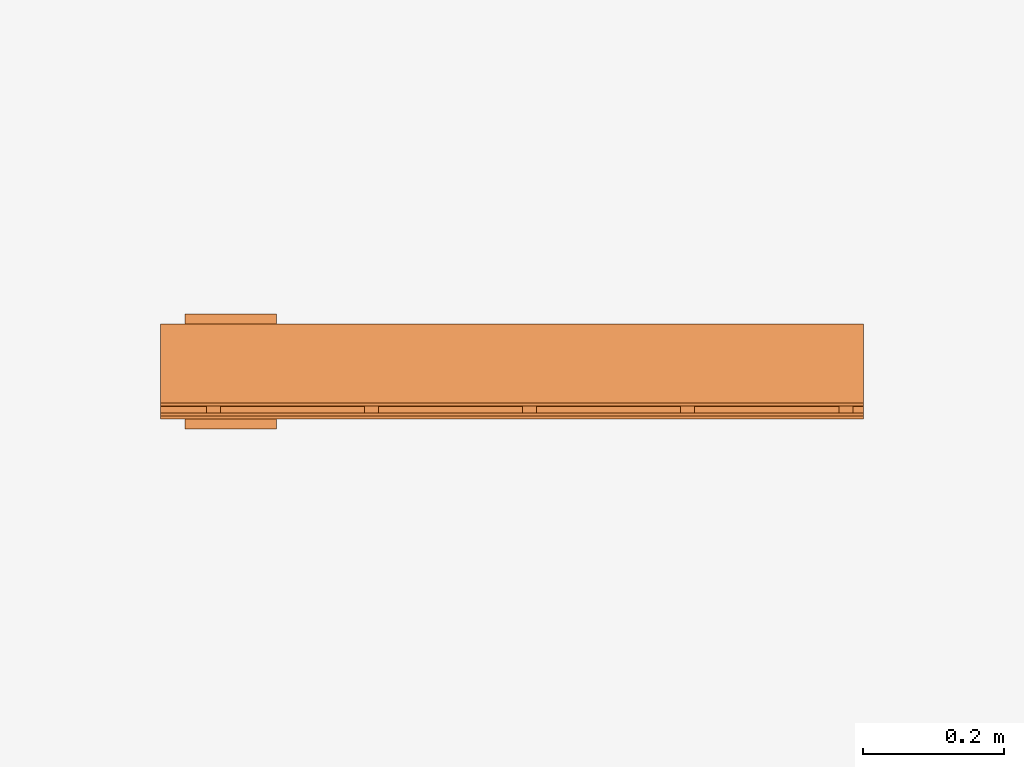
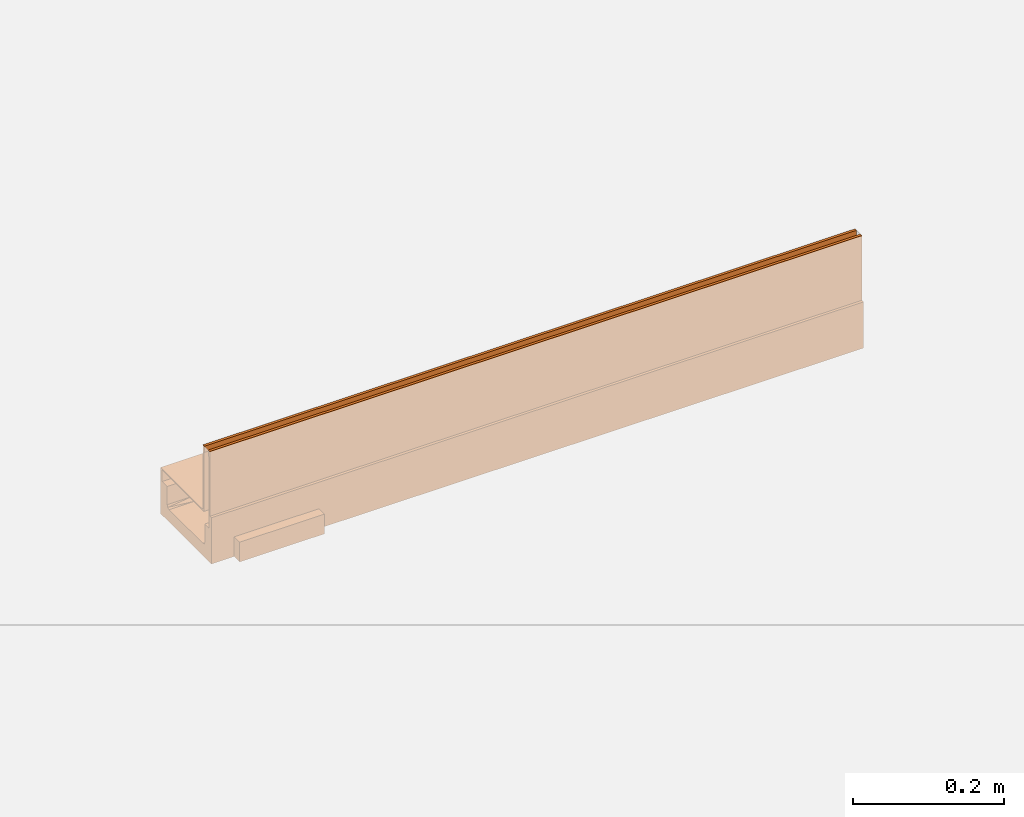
# One storey, part 2 of 2: 1 proxy.
"""IFC2X3 building model written with IfcOpenShell, lengths in millimetres."""

from ifc_helpers import new_model, entity, si_unit, converted_unit, direction, frame, origin, place, context, subcontext, project, spatial, faceted_brep, source, transform, mapped, material, material_list, element, save


model = new_model("IFC2X3")

# Units and contexts
model_context = context("Model", 3, precision=1e-06, world=origin(), true_north=direction((2.0, 6.12303176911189e-17, 1.0)))
context_of_model = context(None, 3, precision=1e-06, world=origin(), true_north=direction((2.0, 6.12303176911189e-17, 1.0)))
body_context = subcontext(model_context, "Body", "Model", "MODEL_VIEW")
ifc_project = project(units=[si_unit("LENGTHUNIT", "METRE", prefix="MILLI"), si_unit("AREAUNIT", "SQUARE_METRE", prefix="MILLI"), si_unit("VOLUMEUNIT", "CUBIC_METRE", prefix="MILLI"), converted_unit("PLANEANGLEUNIT", "DEGREE", entity("IfcRatioMeasure", 0.0174532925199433), si_unit("PLANEANGLEUNIT", "RADIAN"), dimensions=[0, 0, 0, 0, 0, 0, 0]), si_unit("TIMEUNIT", "SECOND")], contexts=[model_context, context_of_model])

# Site, building, storey
site_placement = place(None, origin())
site = spatial("IfcSite", under=ifc_project, at=site_placement, Name="Default", CompositionType="ELEMENT")
building_placement = place(site_placement, origin())
building = spatial("IfcBuilding", under=site, at=building_placement, CompositionType="ELEMENT")
storey_placement = place(building_placement, origin())
storey = spatial("IfcBuildingStorey", under=building, at=storey_placement, Name="Level 1", CompositionType="ELEMENT", Elevation=0.0)

# Proxy
ifc_material_1 = material(Name="Steel, Galvanized")
ifc_material_2 = material(Name="Plastic, Opaque Black")
ifc_material_3 = material(Name="Vienite® Synthetic Resin Concrete")
ifc_material_list = material_list([ifc_material_1, ifc_material_2, ifc_material_3])
shared_shape = source(origin(), body_context, "Body", "Brep", [
    faceted_brep([(63.249999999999, 15.0, -107.0), (63.249999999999, 17.0, -109.0), (63.249999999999, 33.0, -109.0), (63.249999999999, 35.0, -107.0), (63.249999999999, 17.0, -123.499999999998), (63.249999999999, 15.0, -125.499999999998), (63.249999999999, 33.0, -123.499999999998), (63.249999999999, 35.0, -125.499999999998), (-61.250000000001, 15.0, -125.499999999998), (-61.250000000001, 17.0, -123.499999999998), (-61.250000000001, 33.0, -123.499999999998), (-61.250000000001, 35.0, -125.499999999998), (-61.250000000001, 17.0, -109.0), (-61.250000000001, 15.0, -107.0), (-61.250000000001, 33.0, -109.0), (-61.250000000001, 35.0, -107.0)], [[[0, 1, 2, 3]], [[4, 1, 0, 5]], [[3, 2, 6, 7]], [[6, 4, 5, 7]], [[8, 9, 10, 11]], [[12, 9, 8, 13]], [[11, 10, 14, 15]], [[14, 12, 13, 15]], [[5, 0, 13, 8]], [[7, 5, 8, 11]], [[3, 7, 11, 15]], [[0, 3, 15, 13]], [[1, 4, 9, 12]], [[14, 2, 1, 12]], [[6, 2, 14, 10]], [[9, 4, 6, 10]]]),
    faceted_brep([(-47.2500000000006, 0.0, -10.0), (-47.2500000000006, 0.0, -107.0), (-45.2500000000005, 0.0, -105.0), (-45.2500000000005, 0.0, 0.0), (-49.2500000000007, 0.0, 0.0), (-49.2500000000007, 0.0, -10.0), (63.2499999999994, 0.0, -107.0), (63.2499999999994, 0.0, -105.0), (-45.2500000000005, 1000.0, -105.0), (63.2499999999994, 1000.0, -105.0), (63.2499999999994, 1000.0, -107.0), (-47.2500000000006, 1000.0, -107.0), (-47.2500000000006, 1000.0, -10.0), (-45.2500000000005, 1000.0, 0.0), (-49.2500000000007, 1000.0, -10.0), (-49.2500000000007, 1000.0, 0.0)], [[[0, 1, 2, 3]], [[4, 5, 0, 3]], [[6, 7, 2, 1]], [[8, 9, 10, 11]], [[12, 13, 8, 11]], [[12, 14, 15, 13]], [[0, 5, 14, 12]], [[11, 1, 0, 12]], [[6, 1, 11, 10]], [[9, 7, 6, 10]], [[8, 2, 7, 9]], [[3, 2, 8, 13]], [[15, 4, 3, 13]], [[5, 4, 15, 14]]]),
    faceted_brep([(-59.2500000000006, 1000.0, 0.0), (-59.2500000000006, 1000.0, -10.0), (-61.2500000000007, 1000.0, -10.0), (-63.2500000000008, 1000.0, 0.0), (-63.2500000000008, 1000.0, -125.499999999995), (-61.2500000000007, 1000.0, -125.499999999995), (-61.2500000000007, 0.0, -10.0), (-63.2500000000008, 0.0, 0.0), (-63.2500000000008, 0.0, -125.499999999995), (-61.2500000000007, 0.0, -125.499999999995), (-59.2500000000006, 0.0, 0.0), (-59.2500000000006, 0.0, -10.0)], [[[0, 1, 2, 3]], [[4, 3, 2, 5]], [[6, 7, 8, 9]], [[10, 7, 6, 11]], [[9, 8, 4, 5]], [[6, 9, 5, 2]], [[11, 6, 2, 1]], [[10, 11, 1, 0]], [[3, 7, 10, 0]], [[4, 8, 7, 3]]]),
    faceted_brep([(63.2499999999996, 465.0, -107.0), (63.2499999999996, 467.0, -109.0), (63.2499999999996, 483.0, -109.0), (63.2499999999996, 485.0, -107.0), (63.2499999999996, 467.0, -123.499999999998), (63.2499999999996, 465.0, -125.499999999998), (63.2499999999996, 483.0, -123.499999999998), (63.2499999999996, 485.0, -125.499999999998), (-61.2500000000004, 465.0, -125.499999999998), (-61.2500000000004, 467.0, -123.499999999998), (-61.2500000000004, 483.0, -123.499999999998), (-61.2500000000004, 485.0, -125.499999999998), (-61.2500000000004, 467.0, -109.0), (-61.2500000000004, 465.0, -107.0), (-61.2500000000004, 483.0, -109.0), (-61.2500000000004, 485.0, -107.0)], [[[0, 1, 2, 3]], [[4, 1, 0, 5]], [[3, 2, 6, 7]], [[6, 4, 5, 7]], [[8, 9, 10, 11]], [[12, 9, 8, 13]], [[11, 10, 14, 15]], [[14, 12, 13, 15]], [[5, 0, 13, 8]], [[7, 5, 8, 11]], [[3, 7, 11, 15]], [[0, 3, 15, 13]], [[1, 4, 9, 12]], [[2, 1, 12, 14]], [[6, 2, 14, 10]], [[4, 6, 10, 9]]]),
    faceted_brep([(63.2499999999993, 240.0, -107.0), (63.2499999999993, 242.0, -109.0), (63.2499999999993, 258.0, -109.0), (63.2499999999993, 260.0, -107.0), (63.2499999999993, 242.0, -123.499999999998), (63.2499999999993, 240.0, -125.499999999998), (63.2499999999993, 258.0, -123.499999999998), (63.2499999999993, 260.0, -125.499999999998), (-61.2500000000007, 240.0, -125.499999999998), (-61.2500000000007, 242.0, -123.499999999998), (-61.2500000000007, 258.0, -123.499999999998), (-61.2500000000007, 260.0, -125.499999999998), (-61.2500000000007, 242.0, -109.0), (-61.2500000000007, 240.0, -107.0), (-61.2500000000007, 258.0, -109.0), (-61.2500000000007, 260.0, -107.0)], [[[0, 1, 2, 3]], [[4, 1, 0, 5]], [[3, 2, 6, 7]], [[6, 4, 5, 7]], [[8, 9, 10, 11]], [[12, 9, 8, 13]], [[11, 10, 14, 15]], [[14, 12, 13, 15]], [[5, 0, 13, 8]], [[7, 5, 8, 11]], [[3, 7, 11, 15]], [[0, 3, 15, 13]], [[1, 4, 9, 12]], [[2, 1, 12, 14]], [[6, 2, 14, 10]], [[4, 6, 10, 9]]]),
    faceted_brep([(63.2500000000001, 915.0, -107.0), (63.2500000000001, 917.0, -109.0), (63.2500000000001, 933.0, -109.0), (63.2500000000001, 935.0, -107.0), (63.2500000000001, 917.0, -123.499999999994), (63.2500000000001, 915.0, -125.499999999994), (63.2500000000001, 933.0, -123.499999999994), (63.2500000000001, 935.0, -125.499999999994), (-61.2499999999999, 915.0, -125.499999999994), (-61.2499999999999, 917.0, -123.499999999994), (-61.2499999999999, 933.0, -123.499999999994), (-61.2499999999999, 935.0, -125.499999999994), (-61.2499999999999, 917.0, -109.0), (-61.2499999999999, 915.0, -107.0), (-61.2499999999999, 933.0, -109.0), (-61.2499999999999, 935.0, -107.0)], [[[0, 1, 2, 3]], [[4, 1, 0, 5]], [[3, 2, 6, 7]], [[6, 4, 5, 7]], [[8, 9, 10, 11]], [[12, 9, 8, 13]], [[11, 10, 14, 15]], [[14, 12, 13, 15]], [[5, 0, 13, 8]], [[11, 7, 5, 8]], [[3, 7, 11, 15]], [[13, 0, 3, 15]], [[1, 4, 9, 12]], [[2, 1, 12, 14]], [[6, 2, 14, 10]], [[4, 6, 10, 9]]]),
    faceted_brep([(63.2499999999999, 690.0, -107.0), (63.2499999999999, 692.0, -109.0), (63.2499999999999, 708.0, -109.0), (63.2499999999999, 710.0, -107.0), (63.2499999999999, 692.0, -123.499999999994), (63.2499999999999, 690.0, -125.499999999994), (63.2499999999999, 708.0, -123.499999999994), (63.2499999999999, 710.0, -125.499999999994), (-61.2500000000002, 690.0, -125.499999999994), (-61.2500000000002, 692.0, -123.499999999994), (-61.2500000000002, 708.0, -123.499999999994), (-61.2500000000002, 710.0, -125.499999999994), (-61.2500000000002, 692.0, -109.0), (-61.2500000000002, 690.0, -107.0), (-61.2500000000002, 708.0, -109.0), (-61.2500000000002, 710.0, -107.0)], [[[0, 1, 2, 3]], [[4, 1, 0, 5]], [[3, 2, 6, 7]], [[6, 4, 5, 7]], [[8, 9, 10, 11]], [[12, 9, 8, 13]], [[11, 10, 14, 15]], [[14, 12, 13, 15]], [[5, 0, 13, 8]], [[11, 7, 5, 8]], [[3, 7, 11, 15]], [[13, 0, 3, 15]], [[1, 4, 9, 12]], [[2, 1, 12, 14]], [[6, 2, 14, 10]], [[4, 6, 10, 9]]]),
    faceted_brep([(30.0, 951.961524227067, -180.0), (42.4264068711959, 942.426406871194, -180.0), (27.500000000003, 947.631397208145, -180.0), (14.2350474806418, 953.1259204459, -180.0), (0.0, 955.0, -180.0), (15.5291427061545, 957.955549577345, -180.0), (0.0, 960.0, -180.0), (-14.2350474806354, 953.1259204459, -180.0), (38.8908729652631, 938.890872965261, -180.0), (55.0, 900.0, -180.0), (53.1259204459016, 914.23504748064, -180.0), (57.955549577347, 915.529142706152, -180.0), (60.0, 900.0, -180.0), (51.9615242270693, 930.0, -180.0), (47.631397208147, 927.500000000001, -180.0), (-15.529142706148, 957.955549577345, -180.0), (-27.4999999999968, 947.631397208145, -180.0), (-38.8908729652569, 938.890872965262, -180.0), (-42.4264068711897, 942.426406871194, -180.0), (-30.0, 951.961524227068, -180.0), (-51.9615242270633, 930.0, -180.0), (-47.631397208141, 927.500000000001, -180.0), (-53.1259204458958, 914.23504748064, -180.0), (-55.0, 900.0, -180.0), (-57.9555495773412, 915.529142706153, -180.0), (-60.0, 900.0, -180.0), (-53.1259204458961, 885.764952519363, -180.0), (53.1259204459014, 885.764952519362, -180.0), (57.9555495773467, 884.470857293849, -180.0), (47.6313972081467, 872.500000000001, -180.0), (51.9615242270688, 870.0, -180.0), (38.8908729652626, 861.109127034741, -180.0), (42.4264068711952, 857.573593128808, -180.0), (27.5000000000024, 852.368602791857, -180.0), (30.0, 848.038475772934, -180.0), (14.235047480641, 846.874079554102, -180.0), (15.5291427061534, 842.044450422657, -180.0), (0.0, 845.0, -180.0), (0.0, 840.0, -180.0), (-14.2350474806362, 846.874079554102, -180.0), (-42.4264068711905, 857.573593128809, -180.0), (-51.9615242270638, 870.0, -180.0), (-47.6313972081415, 872.500000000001, -180.0), (-38.8908729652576, 861.109127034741, -180.0), (-57.9555495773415, 884.47085729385, -180.0), (-15.529142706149, 842.044450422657, -180.0), (-27.4999999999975, 852.368602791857, -180.0), (-30.0, 848.038475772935, -180.0), (30.0, 848.038475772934, -160.0), (42.4264068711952, 857.573593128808, -160.0), (27.5000000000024, 852.368602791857, -160.0), (14.235047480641, 846.874079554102, -160.0), (0.0, 845.0, -160.0), (15.5291427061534, 842.044450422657, -160.0), (0.0, 840.0, -160.0), (-14.2350474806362, 846.874079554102, -160.0), (38.8908729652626, 861.109127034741, -160.0), (55.0, 900.0, -160.0), (53.1259204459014, 885.764952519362, -160.0), (57.9555495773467, 884.470857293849, -160.0), (60.0, 900.0, -160.0), (51.9615242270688, 870.0, -160.0), (47.6313972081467, 872.500000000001, -160.0), (-15.529142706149, 842.044450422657, -160.0), (-27.4999999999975, 852.368602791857, -160.0), (-38.8908729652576, 861.109127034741, -160.0), (-42.4264068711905, 857.573593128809, -160.0), (-30.0, 848.038475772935, -160.0), (-51.9615242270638, 870.0, -160.0), (-47.6313972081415, 872.500000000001, -160.0), (-53.1259204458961, 885.764952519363, -160.0), (-55.0, 900.0, -160.0), (-57.9555495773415, 884.47085729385, -160.0), (-60.0, 900.0, -160.0), (-53.1259204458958, 914.23504748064, -160.0), (53.1259204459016, 914.23504748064, -160.0), (57.955549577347, 915.529142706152, -160.0), (47.631397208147, 927.500000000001, -160.0), (51.9615242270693, 930.0, -160.0), (38.8908729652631, 938.890872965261, -160.0), (42.4264068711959, 942.426406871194, -160.0), (27.500000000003, 947.631397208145, -160.0), (30.0, 951.961524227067, -160.0), (14.2350474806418, 953.1259204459, -160.0), (15.5291427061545, 957.955549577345, -160.0), (0.0, 955.0, -160.0), (0.0, 960.0, -160.0), (-14.2350474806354, 953.1259204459, -160.0), (-42.4264068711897, 942.426406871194, -160.0), (-51.9615242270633, 930.0, -160.0), (-47.631397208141, 927.500000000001, -160.0), (-38.8908729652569, 938.890872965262, -160.0), (-57.9555495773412, 915.529142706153, -160.0), (-15.529142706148, 957.955549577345, -160.0), (-27.4999999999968, 947.631397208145, -160.0), (-30.0, 951.961524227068, -160.0)], [[[0, 1, 2, 3]], [[3, 4, 5, 0]], [[6, 5, 4, 7]], [[2, 1, 8]], [[9, 10, 11, 12]], [[13, 11, 10, 14]], [[13, 14, 8, 1]], [[15, 6, 7, 16]], [[17, 18, 19, 16]], [[16, 19, 15]], [[20, 18, 21, 22]], [[21, 18, 17]], [[22, 23, 24, 20]], [[25, 24, 23, 26]], [[27, 12, 28, 29]], [[30, 31, 29, 28]], [[31, 30, 32, 33]], [[33, 32, 34, 35]], [[36, 37, 35, 34]], [[37, 36, 38, 39]], [[40, 41, 42, 43]], [[42, 41, 44]], [[44, 25, 26, 42]], [[39, 38, 45, 46]], [[47, 40, 43, 46]], [[47, 46, 45]], [[27, 9, 12]], [[48, 49, 50, 51]], [[51, 52, 53, 48]], [[54, 53, 52, 55]], [[50, 49, 56]], [[57, 58, 59, 60]], [[61, 59, 58, 62]], [[61, 62, 56, 49]], [[63, 54, 55, 64]], [[65, 66, 67, 64]], [[64, 67, 63]], [[68, 66, 69, 70]], [[69, 66, 65]], [[70, 71, 72, 68]], [[73, 72, 71, 74]], [[75, 60, 76, 77]], [[78, 79, 77, 76]], [[79, 78, 80, 81]], [[81, 80, 82, 83]], [[84, 85, 83, 82]], [[85, 84, 86, 87]], [[88, 89, 90, 91]], [[90, 89, 92]], [[92, 73, 74, 90]], [[87, 86, 93, 94]], [[95, 88, 91, 94]], [[95, 94, 93]], [[75, 57, 60]], [[12, 11, 76, 60]], [[11, 13, 78, 76]], [[1, 0, 82, 80]], [[13, 1, 80, 78]], [[0, 5, 84, 82]], [[86, 84, 5, 6]], [[6, 15, 93, 86]], [[15, 19, 95, 93]], [[18, 20, 89, 88]], [[19, 18, 88, 95]], [[20, 24, 92, 89]], [[73, 92, 24, 25]], [[25, 44, 72, 73]], [[44, 41, 68, 72]], [[40, 47, 67, 66]], [[41, 40, 66, 68]], [[47, 45, 63, 67]], [[54, 63, 45, 38]], [[38, 36, 53, 54]], [[36, 34, 48, 53]], [[32, 30, 61, 49]], [[34, 32, 49, 48]], [[30, 28, 59, 61]], [[60, 59, 28, 12]], [[27, 58, 57, 9]], [[29, 62, 58, 27]], [[33, 50, 56, 31]], [[31, 56, 62, 29]], [[35, 51, 50, 33]], [[51, 35, 37, 52]], [[39, 55, 52, 37]], [[46, 64, 55, 39]], [[42, 69, 65, 43]], [[43, 65, 64, 46]], [[26, 70, 69, 42]], [[70, 26, 23, 71]], [[22, 74, 71, 23]], [[21, 90, 74, 22]], [[16, 94, 91, 17]], [[17, 91, 90, 21]], [[7, 87, 94, 16]], [[87, 7, 4, 85]], [[3, 83, 85, 4]], [[2, 81, 83, 3]], [[14, 77, 79, 8]], [[8, 79, 81, 2]], [[10, 75, 77, 14]], [[75, 10, 9, 57]]]),
    faceted_brep([(-34.1631531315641, 850.730902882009, -160.0), (-45.0, 860.368856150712, -160.0), (-45.0, 806.595869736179, -160.0), (-45.0, 752.822729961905, -160.0), (34.1631531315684, 850.730902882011, -160.0), (21.3303487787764, 843.974681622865, -160.0), (45.0, 0.0, -160.0), (45.0, 39.0384443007, -160.0), (-21.3303487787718, 843.974681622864, -160.0), (-45.0, 0.0, -160.0), (-7.25133424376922, 840.494919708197, -160.0), (7.25133424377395, 840.494919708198, -160.0), (-58.2655641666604, 914.377277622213, -160.0), (-53.165298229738, 927.866114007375, -160.0), (-45.0, 939.741395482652, -160.0), (-53.1652982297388, 872.244137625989, -160.0), (-58.2655641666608, 885.732974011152, -160.0), (-60.0, 900.055125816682, -160.0), (-45.0, 900.055125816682, -160.0), (-82.0, 835.0, -148.0), (-67.499999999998, 835.0, -148.0), (-67.4999999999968, 965.0, -148.0), (-82.0, 965.0, -148.0), (-67.4999999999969, 1000.0, -105.0), (-63.2499999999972, 1000.0, -105.0), (-63.2499999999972, 1000.0, -125.500000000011), (-67.499999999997, 1000.0, -180.0), (-50.0, 1000.0, -125.500000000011), (-50.0, 1000.0, -155.0), (-48.5355339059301, 1000.0, -158.535533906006), (-45.0, 1000.0, -160.0), (45.0, 1000.0, -160.0), (67.5000000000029, 1000.0, -180.0), (50.0, 1000.0, -125.500000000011), (63.2500000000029, 1000.0, -125.500000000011), (50.0, 1000.0, -155.0), (63.2500000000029, 1000.0, -105.0), (67.5000000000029, 1000.0, -105.0), (48.5355339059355, 1000.0, -158.535533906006), (67.4999999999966, 0.0, -105.0), (63.2499999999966, 0.0, -105.0), (63.2499999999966, 0.0, -125.500000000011), (67.4999999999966, 0.0, -180.0), (50.0, 0.0, -125.500000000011), (50.0, 0.0, -155.0), (48.5355339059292, 0.0, -158.535533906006), (-67.5000000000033, 0.0, -180.0), (-50.0, 0.0, -125.500000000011), (-63.2500000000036, 0.0, -125.500000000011), (-50.0, 0.0, -155.0), (-63.2500000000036, 0.0, -105.0), (-67.5000000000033, 0.0, -105.0), (-48.5355339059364, 0.0, -158.535533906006), (-50.0, 39.0384441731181, -155.0), (-50.0, 62.5000057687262, -155.0), (-45.0, 960.961557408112, -160.0), (-50.0, 960.961555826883, -155.0), (-50.0, 937.499994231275, -155.0), (-50.0, 906.249991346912, -155.0), (-50.0, 875.000003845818, -155.0), (-45.0, 39.0386424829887, -160.0), (-45.0, 430.184504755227, -160.0), (-45.0, 483.957644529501, -160.0), (-50.0, 468.750012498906, -155.0), (-50.0, 437.500009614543, -155.0), (-50.0, 781.250010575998, -155.0), (-50.0, 812.50001346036, -155.0), (-45.0, 591.503617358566, -160.0), (-50.0, 624.999996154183, -155.0), (-50.0, 593.74999326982, -155.0), (-50.0, 562.499990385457, -155.0), (-50.0, 750.000007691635, -155.0), (-50.0, 718.750004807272, -155.0), (-50.0, 187.49998653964, -155.0), (-45.0, 161.319112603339, -160.0), (-45.0, 215.092252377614, -160.0), (-50.0, 218.749989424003, -155.0), (-45.0, 645.27675713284, -160.0), (-50.0, 687.500001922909, -155.0), (-50.0, 656.249999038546, -155.0), (-45.0, 73.2924610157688, -160.0), (-50.0, 93.750008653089, -155.0), (-45.0, 537.730630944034, -160.0), (-50.0, 531.249987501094, -155.0), (-50.0, 500.0, -155.0), (-45.0, 322.63837856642, -160.0), (-50.0, 312.499998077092, -155.0), (-50.0, 281.249995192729, -155.0), (-45.0, 376.411364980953, -160.0), (-50.0, 406.25000673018, -155.0), (-50.0, 375.000003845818, -155.0), (-50.0, 343.750000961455, -155.0), (-45.0, 107.546126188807, -160.0), (-50.0, 124.999996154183, -155.0), (-50.0, 249.999992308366, -155.0), (-45.0, 268.865392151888, -160.0), (-50.0, 156.249983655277, -155.0), (-50.0, 843.750016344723, -155.0), (-45.0, 699.049743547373, -160.0), (-45.0, 564.617200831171, -160.0), (-21.3303487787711, 956.1355700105, -160.0), (-7.25133424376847, 959.615331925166, -160.0), (-34.1631531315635, 949.379348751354, -160.0), (7.25133424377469, 959.615331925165, -160.0), (21.3303487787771, 956.135570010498, -160.0), (34.163153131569, 949.379348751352, -160.0), (45.0, 939.741395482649, -160.0), (45.0, 960.961557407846, -160.0), (50.0, 93.7500116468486, -155.0), (50.0, 125.000010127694, -155.0), (45.0, 107.546109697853, -160.0), (45.0, 73.2922769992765, -160.0), (50.0, 875.000006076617, -155.0), (45.0, 900.055125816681, -160.0), (45.0, 860.368856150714, -160.0), (50.0, 843.750007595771, -155.0), (45.0, 806.595805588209, -160.0), (50.0, 812.500009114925, -155.0), (50.0, 960.961561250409, -155.0), (50.0, 937.500003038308, -155.0), (50.0, 156.25000860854, -155.0), (45.0, 161.319164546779, -160.0), (50.0, 593.749987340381, -155.0), (50.0, 624.999985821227, -155.0), (45.0, 591.503586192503, -160.0), (50.0, 562.499988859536, -155.0), (50.0, 250.000004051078, -155.0), (45.0, 268.865265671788, -160.0), (45.0, 215.092215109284, -160.0), (50.0, 218.750005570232, -155.0), (45.0, 645.27664104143, -160.0), (50.0, 656.249984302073, -155.0), (50.0, 687.499982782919, -155.0), (45.0, 752.822750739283, -160.0), (50.0, 749.999995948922, -155.0), (50.0, 781.249994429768, -155.0), (50.0, 437.499994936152, -155.0), (50.0, 468.749993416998, -155.0), (45.0, 430.184430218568, -160.0), (50.0, 406.249996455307, -155.0), (50.0, 499.999991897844, -155.0), (50.0, 531.24999037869, -155.0), (45.0, 537.730535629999, -160.0), (45.0, 483.957485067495, -160.0), (45.0, 699.049695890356, -160.0), (50.0, 718.749997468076, -155.0), (45.0, 376.411375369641, -160.0), (50.0, 374.999997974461, -155.0), (50.0, 906.250004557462, -155.0), (50.0, 62.5000131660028, -155.0), (50.0, 281.250002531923, -155.0), (45.0, 322.638320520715, -160.0), (50.0, 343.749999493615, -155.0), (50.0, 187.500007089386, -155.0), (50.0, 39.0384549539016, -155.0), (50.0, 312.500001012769, -155.0), (67.5000000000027, 965.0, -148.0), (67.5000000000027, 965.0, -180.0), (67.5000000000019, 835.0, -148.0), (67.5000000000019, 835.0, -180.0), (15.5291427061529, 958.010675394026, -180.0), (0.0, 960.055125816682, -180.0), (30.0, 952.016650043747, -180.0), (51.9615242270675, 930.055125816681, -180.0), (82.0, 965.0, -180.0), (57.9555495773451, 915.584268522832, -180.0), (42.4264068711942, 942.481532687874, -180.0), (60.0, 900.055125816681, -180.0), (82.0, 835.0, -180.0), (-82.0, 965.0, -180.0), (-67.4999999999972, 965.0, -180.0), (-51.9615242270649, 930.055125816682, -180.0), (-57.9555495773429, 915.584268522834, -180.0), (-30.0, 952.016650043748, -180.0), (-15.5291427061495, 958.010675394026, -180.0), (-42.4264068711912, 942.481532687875, -180.0), (-60.0, 900.055125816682, -180.0), (-82.0, 835.0, -180.0), (57.9555495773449, 884.52598311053, -180.0), (42.4264068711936, 857.628718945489, -180.0), (51.9615242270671, 870.055125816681, -180.0), (30.0, 848.093601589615, -180.0), (15.5291427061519, 842.099576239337, -180.0), (0.0, 840.055125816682, -180.0), (-42.4264068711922, 857.628718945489, -180.0), (-30.0, 848.093601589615, -180.0), (-67.4999999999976, 835.0, -180.0), (-57.9555495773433, 884.525983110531, -180.0), (-51.9615242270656, 870.055125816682, -180.0), (-15.5291427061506, 842.099576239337, -180.0), (82.0, 835.0, -148.0), (82.0, 965.0, -148.0), (53.1651104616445, 927.866472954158, -160.0), (58.2655781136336, 914.377220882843, -160.0), (60.0, 900.055125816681, -160.0), (58.2655781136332, 885.733030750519, -160.0), (53.1651104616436, 872.243778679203, -160.0)], [[[0, 1, 2, 3]], [[4, 5, 6, 7]], [[8, 9, 10]], [[9, 8, 0]], [[6, 11, 10, 9]], [[11, 6, 5]], [[12, 13, 14, 15]], [[15, 16, 17, 12]], [[15, 14, 18, 1]], [[19, 20, 21, 22]], [[23, 24, 25, 26]], [[25, 27, 28]], [[28, 29, 26, 25]], [[29, 30, 26]], [[26, 30, 31, 32]], [[33, 34, 35]], [[34, 36, 37, 32]], [[31, 38, 32]], [[32, 38, 35, 34]], [[39, 40, 41, 42]], [[41, 43, 44]], [[44, 45, 42, 41]], [[45, 6, 42]], [[42, 6, 9, 46]], [[47, 48, 49]], [[48, 50, 51, 46]], [[9, 52, 46]], [[46, 52, 49, 48]], [[24, 23, 51, 50]], [[48, 25, 24, 50]], [[47, 27, 25, 48]], [[28, 27, 47]], [[47, 49, 53, 54]], [[14, 55, 56, 57]], [[18, 58, 59, 1]], [[52, 9, 60]], [[61, 62, 63, 64]], [[53, 49, 52]], [[65, 3, 2, 66]], [[67, 68, 69, 70]], [[71, 72, 3, 65]], [[73, 74, 75, 76]], [[77, 78, 79, 68]], [[54, 80, 81]], [[82, 83, 84, 62]], [[85, 86, 87]], [[88, 89, 90, 91]], [[89, 88, 61, 64]], [[85, 88, 91, 86]], [[92, 93, 81, 80]], [[87, 94, 95, 85]], [[74, 96, 93, 92]], [[53, 52, 60]], [[54, 53, 60, 80]], [[97, 66, 2, 1]], [[55, 30, 29]], [[29, 28, 56]], [[56, 55, 29]], [[98, 3, 72, 78]], [[77, 98, 78]], [[94, 76, 75, 95]], [[70, 82, 99, 67]], [[58, 18, 14, 57]], [[1, 59, 97]], [[83, 82, 70]], [[74, 73, 96]], [[62, 84, 63]], [[77, 68, 67]], [[30, 100, 101]], [[102, 100, 30, 55]], [[101, 103, 31, 30]], [[31, 103, 104]], [[105, 106, 107, 31]], [[104, 105, 31]], [[108, 109, 110, 111]], [[112, 113, 114, 115]], [[7, 6, 45]], [[116, 117, 115, 114]], [[38, 107, 118]], [[118, 107, 106, 119]], [[109, 120, 121, 110]], [[122, 123, 124, 125]], [[126, 127, 128, 129]], [[130, 123, 131, 132]], [[133, 134, 135, 116]], [[136, 137, 138, 139]], [[140, 141, 142, 143]], [[133, 144, 145, 134]], [[137, 140, 143, 138]], [[146, 147, 139, 138]], [[106, 113, 148, 119]], [[149, 108, 111, 7]], [[150, 151, 127, 126]], [[146, 151, 152, 147]], [[128, 121, 153, 129]], [[149, 7, 154]], [[44, 154, 45]], [[45, 154, 7]], [[118, 35, 38]], [[38, 31, 107]], [[144, 130, 132, 145]], [[125, 124, 142, 141]], [[130, 124, 123]], [[155, 152, 151, 150]], [[135, 117, 116]], [[120, 153, 121]], [[113, 112, 148]], [[33, 35, 118, 119]], [[44, 43, 33]], [[34, 33, 43, 41]], [[40, 36, 34, 41]], [[39, 37, 36, 40]], [[32, 37, 156, 157]], [[156, 37, 158]], [[39, 42, 158, 37]], [[42, 159, 158]], [[32, 160, 161, 26]], [[32, 157, 162, 160]], [[163, 157, 164, 165]], [[166, 162, 157]], [[163, 166, 157]], [[167, 165, 164, 168]], [[169, 170, 171, 172]], [[173, 170, 26, 174]], [[174, 26, 161]], [[173, 175, 170]], [[169, 172, 176, 177]], [[175, 171, 170]], [[178, 167, 168]], [[159, 179, 180, 168]], [[178, 168, 180]], [[181, 159, 182]], [[181, 179, 159]], [[183, 182, 159, 42]], [[184, 185, 186]], [[177, 187, 188, 186]], [[184, 186, 188]], [[186, 189, 183, 46]], [[183, 42, 46]], [[186, 185, 189]], [[187, 177, 176]], [[26, 170, 21, 23]], [[23, 21, 20, 51]], [[20, 186, 46, 51]], [[156, 158, 190, 191]], [[190, 168, 164, 191]], [[159, 168, 190, 158]], [[164, 157, 156, 191]], [[21, 170, 169, 22]], [[19, 177, 186, 20]], [[22, 169, 177, 19]], [[106, 192, 193, 113]], [[114, 113, 193, 194]], [[195, 196, 114, 194]], [[167, 193, 165]], [[165, 192, 163]], [[162, 166, 105]], [[106, 166, 163]], [[160, 162, 104]], [[193, 192, 165]], [[167, 194, 193]], [[162, 105, 104]], [[105, 166, 106]], [[163, 192, 106]], [[160, 104, 103]], [[103, 161, 160]], [[161, 101, 174]], [[174, 100, 173]], [[171, 175, 14]], [[13, 172, 171]], [[102, 175, 173]], [[172, 12, 176]], [[100, 102, 173]], [[174, 101, 100]], [[172, 13, 12]], [[13, 171, 14]], [[175, 102, 14]], [[176, 12, 17]], [[103, 101, 161]], [[176, 16, 187]], [[187, 15, 188]], [[185, 184, 0]], [[1, 184, 188]], [[189, 185, 8]], [[16, 15, 187]], [[176, 17, 16]], [[185, 0, 8]], [[0, 184, 1]], [[188, 15, 1]], [[189, 8, 10]], [[10, 183, 189]], [[183, 11, 182]], [[182, 5, 181]], [[180, 179, 114]], [[196, 178, 180]], [[4, 179, 181]], [[178, 195, 167]], [[5, 4, 181]], [[182, 11, 5]], [[178, 196, 195]], [[196, 180, 114]], [[179, 4, 114]], [[167, 195, 194]], [[10, 11, 183]], [[0, 3, 98, 77]], [[0, 77, 67, 99]], [[0, 99, 82, 62]], [[0, 62, 61, 88]], [[0, 88, 85, 95]], [[0, 95, 75, 74]], [[0, 74, 92, 80]], [[0, 80, 60, 9]], [[4, 7, 111, 110]], [[4, 110, 121, 128]], [[4, 128, 127, 151]], [[4, 151, 146, 138]], [[4, 138, 143, 142]], [[4, 142, 124, 130]], [[4, 130, 144, 133]], [[4, 133, 116, 114]], [[47, 54, 81, 93]], [[47, 93, 96, 73]], [[47, 73, 76, 94]], [[47, 94, 87, 86]], [[47, 86, 91, 90]], [[47, 90, 89, 64]], [[47, 64, 63, 84]], [[47, 84, 83, 70]], [[47, 70, 69, 68]], [[47, 68, 79, 78]], [[47, 78, 72, 71]], [[47, 71, 65, 66]], [[47, 66, 97, 59]], [[47, 59, 58, 57]], [[47, 57, 56, 28]], [[102, 55, 14]], [[33, 119, 148, 112]], [[33, 112, 115, 117]], [[33, 117, 135, 134]], [[33, 134, 145, 132]], [[33, 132, 131, 123]], [[33, 123, 122, 125]], [[33, 125, 141, 140]], [[33, 140, 137, 136]], [[33, 136, 139, 147]], [[33, 147, 152, 155]], [[33, 155, 150, 126]], [[33, 126, 129, 153]], [[33, 153, 120, 109]], [[33, 109, 108, 149]], [[33, 149, 154, 44]]]),
])
proxy_placement = place(storey_placement, frame((143.656586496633, 99.9218925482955, 0.0), z_axis=(0.0, 0.0, 1.0), x_axis=(0.0, 1.0, 0.0)))
element("IfcBuildingElementProxy", 1, at=proxy_placement, inside=storey, material=ifc_material_list, Name="Civil-Drainage-Channel-ACO-MultiDrain-M100D-Brickslot-Channel-System:23076 - No 075V Constant Depth Outlet Shallow Channel - 1000mm LG – Invert Depth 55mm:23076 - No 075V Constant Depth Outlet Shallow Channel - 1000mm LG – Invert Depth 55mm", ObjectType="23076 - No 075V Constant Depth Outlet Shallow Channel - 1000mm LG – Invert Depth 55mm", CompositionType="ELEMENT", context=body_context, shape_type="MappedRepresentation", body=[
    mapped(shared_shape, transform((0.0, 0.0, 0.0), scale=1.0)),
])

save(model, "model.ifc")
